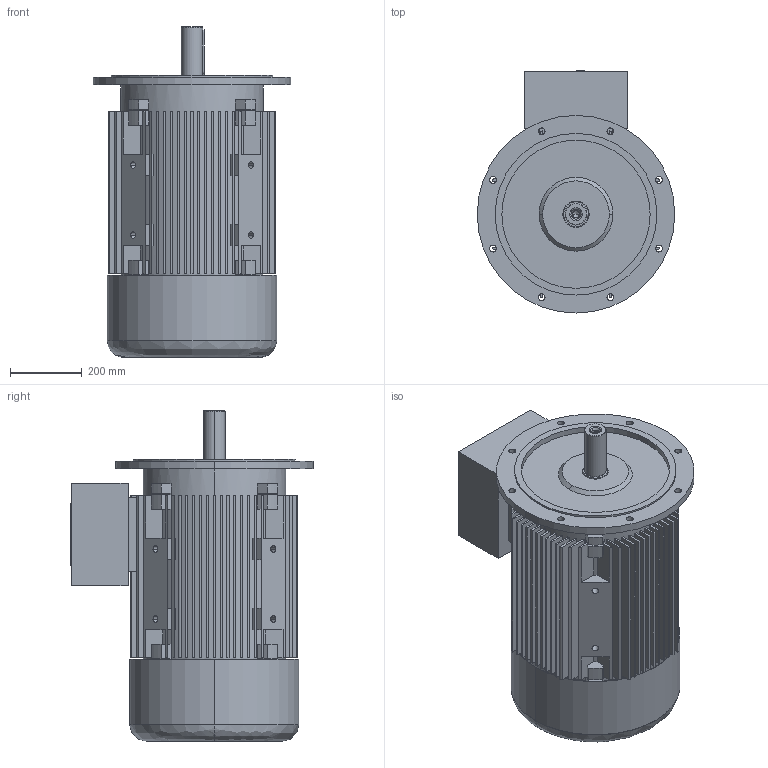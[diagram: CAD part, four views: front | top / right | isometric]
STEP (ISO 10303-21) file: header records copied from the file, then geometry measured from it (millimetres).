
FILE_DESCRIPTION (( 'STEP AP203' ), '1' );
FILE_NAME ('20.18427_B 7AT 250M -2 B5 STANDK.STEP', '2018-04-24T12:27:20', ( '' ), ( '' ), 'SwSTEP 2.0', 'SolidWorks 2017', '' );
FILE_SCHEMA (( 'CONFIG_CONTROL_DESIGN' ));
Length unit declared in the file: millimetre
Products named in the file (1): 20.18427_B 7AT 250M -2 B5 STANDK
Bounding box: 550 x 674 x 920 mm (x, y, z)
Volume: 47513665 mm3; surface area: 6058683 mm2
Topology: 5 solids, 5 shells, 785 faces, 2097 edges, 1379 vertices
Faces by surface type: plane 612, cylinder 126, cone 34, bspline 13
Entity records: 25057 total; most frequent: CARTESIAN_POINT 5065, ORIENTED_EDGE 4158, DIRECTION 4093, EDGE_CURVE 2079, LINE 1543, VECTOR 1543, VERTEX_POINT 1379, AXIS2_PLACEMENT_3D 1275
